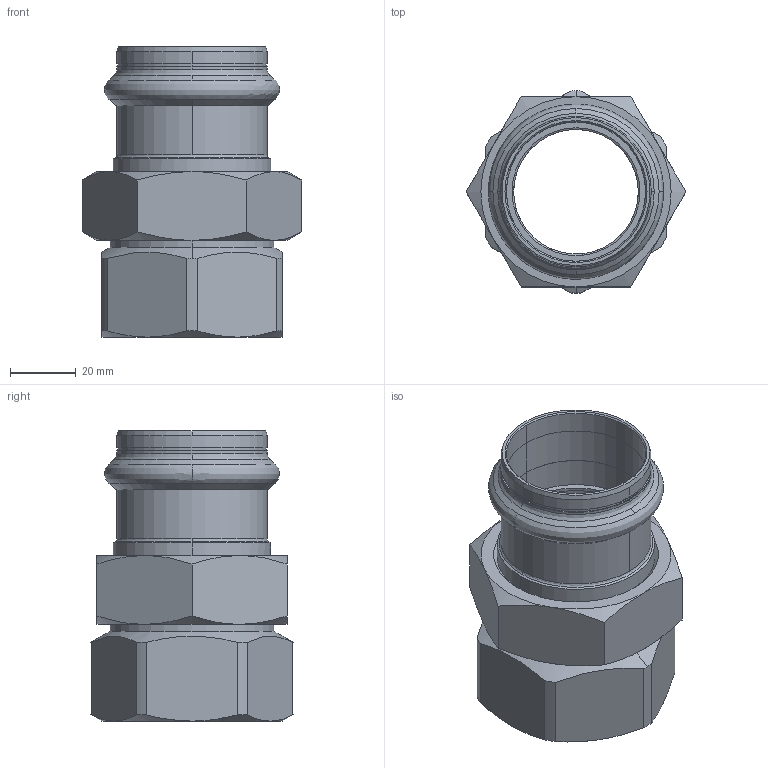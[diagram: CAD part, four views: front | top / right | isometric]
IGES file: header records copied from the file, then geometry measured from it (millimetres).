
Start section: Elysium IGES Interface
Global section: file name: C:\3d modellen sudo\C-Pr VP\SP8330GV\8330GVW42112.igs; native system: CoCreate Modeling 17.00A  17-Jun-2010; preprocessor: CoCreate IGES_3D V2.2; author: Unknown; organization: Unknown; date: 20130305.132303; units: millimetre
Bounding box: 66.97 x 61.62 x 88.5 mm (x, y, z)
Volume: 77873.5 mm3; surface area: 39167.2 mm2
Topology: 3 solids, 3 shells, 130 faces, 315 edges, 192 vertices
Faces by surface type: bspline 130
